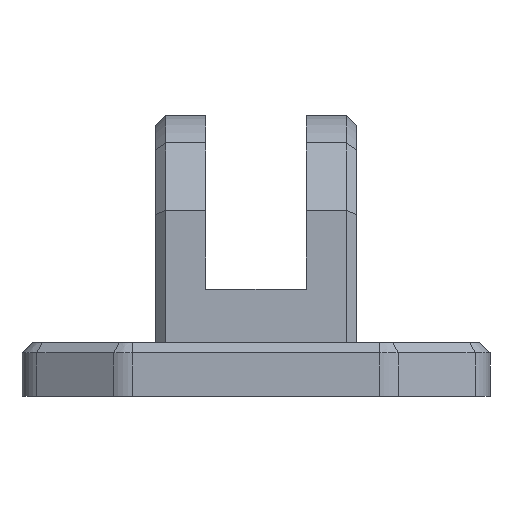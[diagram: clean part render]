
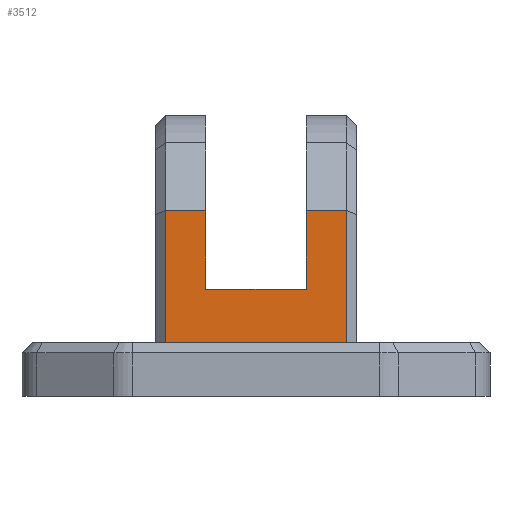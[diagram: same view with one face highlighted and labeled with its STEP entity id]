
A CAD part, front view. The second image highlights one B-rep face of the part: STEP entity #3512.
In plain terms, the highlighted planar face has unit normal (0, -1, 0).
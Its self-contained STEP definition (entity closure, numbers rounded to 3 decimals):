
#476=CARTESIAN_POINT('Vertex',(13.5,-20.,-20.)) ;
#479=CARTESIAN_POINT('Line Origine',(0.,-20.,-20.)) ;
#483=CARTESIAN_POINT('Vertex',(-13.5,-20.,-20.)) ;
#2069=CARTESIAN_POINT('Line Origine',(0.,-20.,-12.)) ;
#2073=CARTESIAN_POINT('Vertex',(-7.5,-20.,-12.)) ;
#2075=CARTESIAN_POINT('Vertex',(7.5,-20.,-12.)) ;
#2100=CARTESIAN_POINT('Line Origine',(-7.5,-20.,-6.101)) ;
#2104=CARTESIAN_POINT('Vertex',(-7.5,-20.,-0.201)) ;
#2349=CARTESIAN_POINT('Vertex',(13.5,-20.,-0.201)) ;
#2356=CARTESIAN_POINT('Vertex',(7.5,-20.,-0.201)) ;
#2359=CARTESIAN_POINT('Line Origine',(10.5,-20.,-0.201)) ;
#2760=CARTESIAN_POINT('Vertex',(-13.5,-20.,-0.201)) ;
#2763=CARTESIAN_POINT('Line Origine',(-10.5,-20.,-0.201)) ;
#2921=CARTESIAN_POINT('Line Origine',(7.5,-20.,-6.101)) ;
#3480=CARTESIAN_POINT('Line Origine',(13.5,-20.,-3.)) ;
#3492=CARTESIAN_POINT('Axis2P3D Location',(40.,-20.,-20.)) ;
#3497=CARTESIAN_POINT('Line Origine',(-13.5,-20.,-10.101)) ;
#481=VECTOR('Line Direction',#480,1.) ;
#2071=VECTOR('Line Direction',#2070,1.) ;
#2102=VECTOR('Line Direction',#2101,1.) ;
#2361=VECTOR('Line Direction',#2360,1.) ;
#2765=VECTOR('Line Direction',#2764,1.) ;
#2923=VECTOR('Line Direction',#2922,1.) ;
#3482=VECTOR('Line Direction',#3481,1.) ;
#3499=VECTOR('Line Direction',#3498,1.) ;
#480=DIRECTION('Vector Direction',(-1.,0.,0.)) ;
#2070=DIRECTION('Vector Direction',(1.,0.,0.)) ;
#2101=DIRECTION('Vector Direction',(0.,0.,-1.)) ;
#2360=DIRECTION('Vector Direction',(-1.,0.,0.)) ;
#2764=DIRECTION('Vector Direction',(-1.,0.,0.)) ;
#2922=DIRECTION('Vector Direction',(0.,0.,-1.)) ;
#3481=DIRECTION('Vector Direction',(0.,0.,1.)) ;
#3493=DIRECTION('Axis2P3D Direction',(0.,1.,-0.)) ;
#3494=DIRECTION('Axis2P3D XDirection',(-1.,0.,0.)) ;
#3498=DIRECTION('Vector Direction',(0.,0.,1.)) ;
#3495=AXIS2_PLACEMENT_3D('Plane Axis2P3D',#3492,#3493,#3494) ;
#482=LINE('Line',#479,#481) ;
#2072=LINE('Line',#2069,#2071) ;
#2103=LINE('Line',#2100,#2102) ;
#2362=LINE('Line',#2359,#2361) ;
#2766=LINE('Line',#2763,#2765) ;
#2924=LINE('Line',#2921,#2923) ;
#3483=LINE('Line',#3480,#3482) ;
#3500=LINE('Line',#3497,#3499) ;
#3496=PLANE('',#3495) ;
#485=EDGE_CURVE('',#484,#477,#482,.F.) ;
#2077=EDGE_CURVE('',#2074,#2076,#2072,.T.) ;
#2106=EDGE_CURVE('',#2105,#2074,#2103,.T.) ;
#2363=EDGE_CURVE('',#2350,#2357,#2362,.T.) ;
#2767=EDGE_CURVE('',#2105,#2761,#2766,.T.) ;
#2925=EDGE_CURVE('',#2357,#2076,#2924,.T.) ;
#3484=EDGE_CURVE('',#2350,#477,#3483,.F.) ;
#3501=EDGE_CURVE('',#2761,#484,#3500,.F.) ;
#3502=EDGE_LOOP('',(#3503,#3504,#3505,#3506,#3507,#3508,#3509,#3510)) ;
#3503=ORIENTED_EDGE('',*,*,#3501,.T.) ;
#3504=ORIENTED_EDGE('',*,*,#485,.T.) ;
#3505=ORIENTED_EDGE('',*,*,#3484,.F.) ;
#3506=ORIENTED_EDGE('',*,*,#2363,.T.) ;
#3507=ORIENTED_EDGE('',*,*,#2925,.T.) ;
#3508=ORIENTED_EDGE('',*,*,#2077,.F.) ;
#3509=ORIENTED_EDGE('',*,*,#2106,.F.) ;
#3510=ORIENTED_EDGE('',*,*,#2767,.T.) ;
#477=VERTEX_POINT('',#476) ;
#484=VERTEX_POINT('',#483) ;
#2074=VERTEX_POINT('',#2073) ;
#2076=VERTEX_POINT('',#2075) ;
#2105=VERTEX_POINT('',#2104) ;
#2350=VERTEX_POINT('',#2349) ;
#2357=VERTEX_POINT('',#2356) ;
#2761=VERTEX_POINT('',#2760) ;
#3512=ADVANCED_FACE('Corps principal',(#3511),#3496,.F.) ;
#3511=FACE_OUTER_BOUND('',#3502,.T.) ;
